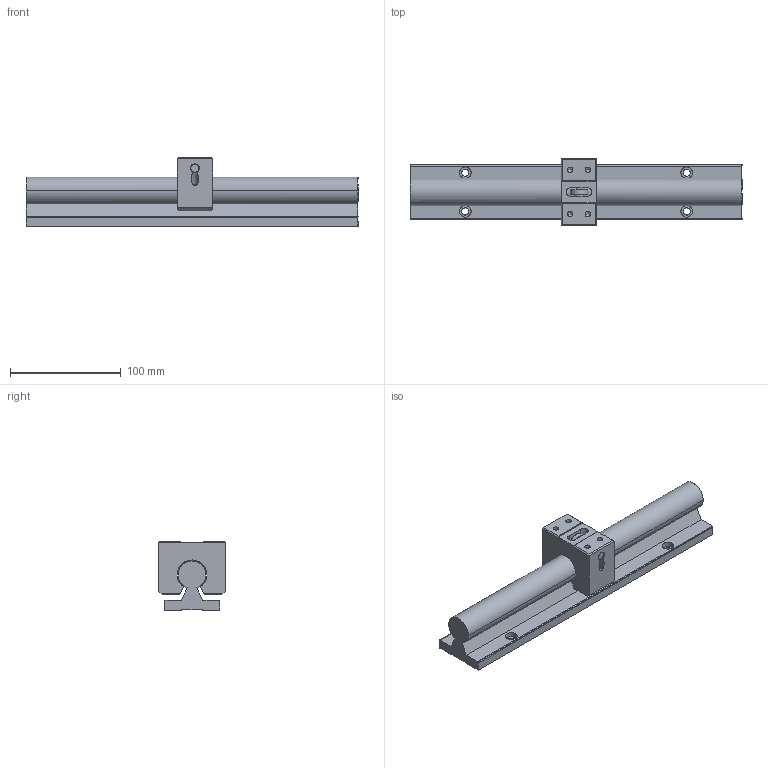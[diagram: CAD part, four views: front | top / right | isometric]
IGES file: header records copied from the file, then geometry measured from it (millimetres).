
Global section: file name: No Iges File Name specified; native system: AutoDesk Inventor R10; preprocessor: AutoDesk Inventor Iges Exporter R10; author: No Author specified; organization: No Organization specified; date: 20101222.160502; units: millimetre
Bounding box: 300 x 60 x 62 mm (x, y, z)
Surface area: 78457.5 mm2 (no closed solid volume)
Topology: 0 solids, 0 shells, 209 faces, 1462 edges, 1448 vertices
Faces by surface type: bspline 209
